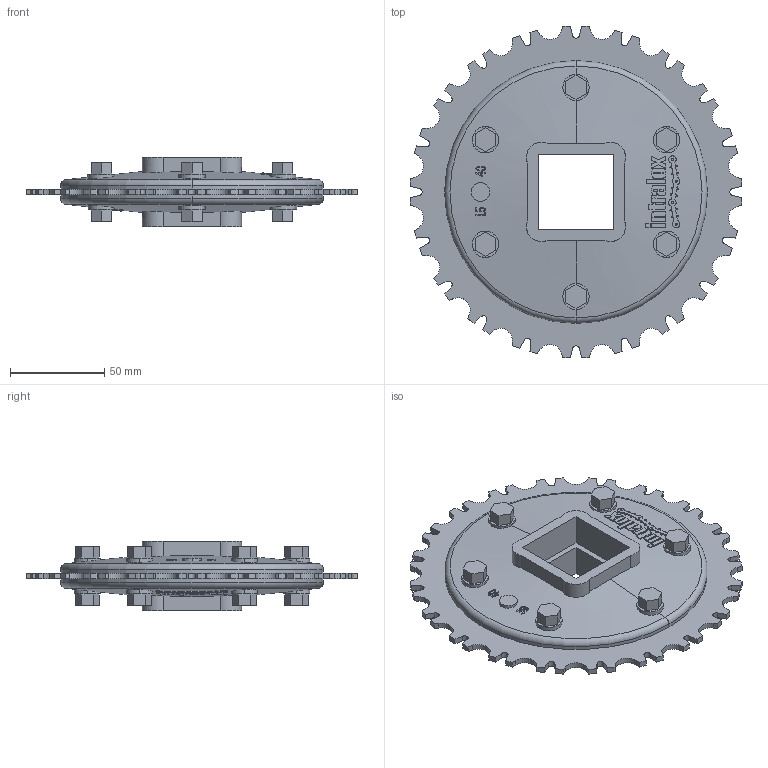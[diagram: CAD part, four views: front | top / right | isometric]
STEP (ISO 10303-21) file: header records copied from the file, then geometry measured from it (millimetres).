
FILE_DESCRIPTION((''),'2;1');
FILE_NAME('S900_SPL_METAL_68X15_40_SQ_ASM','2008-12-12T',('jmumphre'),(''),'PRO/ENGINEER BY PARAMETRIC TECHNOLOGY CORPORATION, 2008150','PRO/ENGINEER BY PARAMETRIC TECHNOLOGY CORPORATION, 2008150','');
FILE_SCHEMA(('CONFIG_CONTROL_DESIGN'));
Length unit declared in the file: inch
Products named in the file (5): S900_TP_METAL_68X254_SQ_AF0; JOINING_PLATE_6X15_40_SQ_AF12; JOINING_PLATE_6X15_40_SQ_AF13; BOLTS_N_NUTS_4-376X0-750_AF12; S900_SPL_METAL_68X15_40_SQ_ASM
Assembly tree (4 placements, depth 2):
  S900_SPL_METAL_68X15_40_SQ_ASM
    S900_TP_METAL_68X254_SQ_AF0
    JOINING_PLATE_6X15_40_SQ_AF12
    JOINING_PLATE_6X15_40_SQ_AF13
    BOLTS_N_NUTS_4-376X0-750_AF12
Bounding box: 176.43 x 176.43 x 37.08 mm (x, y, z)
Volume: 270672.3 mm3; surface area: 117423.9 mm2
Topology: 9 solids, 9 shells, 1062 faces, 2920 edges, 1944 vertices
Faces by surface type: plane 704, cylinder 304, cone 50, torus 4
Entity records: 37245 total; most frequent: CARTESIAN_POINT 12347, ORIENTED_EDGE 5840, DIRECTION 3986, EDGE_CURVE 2920, VERTEX_POINT 1944, VECTOR 1388, LINE 1388, B_SPLINE_CURVE_WITH_KNOTS 1304
